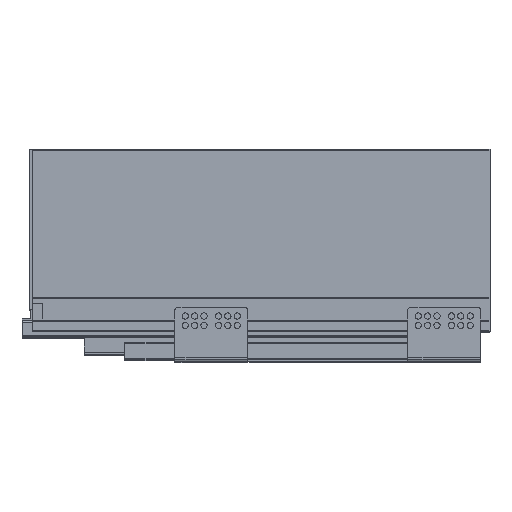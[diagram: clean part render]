
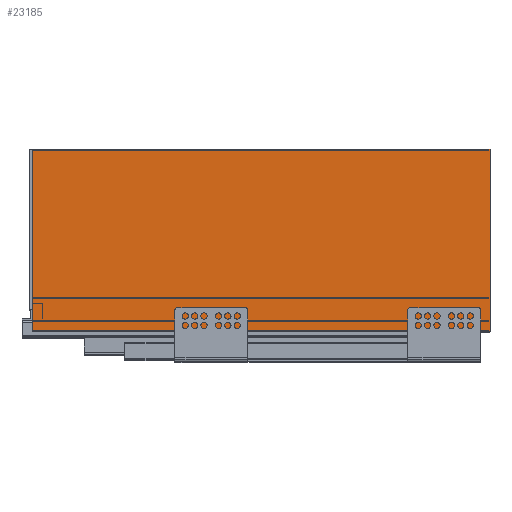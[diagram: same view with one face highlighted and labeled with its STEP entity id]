
A CAD part, top view. The second image highlights one B-rep face of the part: STEP entity #23185.
In plain terms, the highlighted planar face has unit normal (0, 0, 1).
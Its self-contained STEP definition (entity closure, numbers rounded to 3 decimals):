
#570=PLANE('',#24569);
#1523=FACE_OUTER_BOUND('',#2804,.T.);
#2804=EDGE_LOOP('',(#16214,#16215,#16216,#16217));
#4518=LINE('',#33431,#7157);
#4520=LINE('',#33435,#7159);
#4521=LINE('',#33437,#7160);
#4522=LINE('',#33438,#7161);
#7157=VECTOR('',#26909,10.);
#7159=VECTOR('',#26913,10.);
#7160=VECTOR('',#26914,10.);
#7161=VECTOR('',#26915,10.);
#10371=VERTEX_POINT('',#33428);
#10372=VERTEX_POINT('',#33430);
#10373=VERTEX_POINT('',#33434);
#10374=VERTEX_POINT('',#33436);
#12686=EDGE_CURVE('',#10371,#10372,#4518,.T.);
#12688=EDGE_CURVE('',#10371,#10373,#4520,.T.);
#12689=EDGE_CURVE('',#10373,#10374,#4521,.T.);
#12690=EDGE_CURVE('',#10374,#10372,#4522,.T.);
#16214=ORIENTED_EDGE('',*,*,#12688,.T.);
#16215=ORIENTED_EDGE('',*,*,#12689,.T.);
#16216=ORIENTED_EDGE('',*,*,#12690,.T.);
#16217=ORIENTED_EDGE('',*,*,#12686,.F.);
#23185=ADVANCED_FACE('',(#1523),#570,.F.);
#24569=AXIS2_PLACEMENT_3D('',#33433,#26911,#26912);
#26909=DIRECTION('',(1.,0.,0.));
#26911=DIRECTION('center_axis',(0.,0.,-1.));
#26912=DIRECTION('ref_axis',(0.,1.,0.));
#26913=DIRECTION('',(0.,-1.,0.));
#26914=DIRECTION('',(1.,0.,0.));
#26915=DIRECTION('',(0.,1.,0.));
#33428=CARTESIAN_POINT('',(0.,175.,535.));
#33430=CARTESIAN_POINT('',(440.,175.,535.));
#33431=CARTESIAN_POINT('',(0.,175.,535.));
#33433=CARTESIAN_POINT('Origin',(0.,0.,535.));
#33434=CARTESIAN_POINT('',(0.,0.,535.));
#33435=CARTESIAN_POINT('',(0.,175.,535.));
#33436=CARTESIAN_POINT('',(440.,0.,535.));
#33437=CARTESIAN_POINT('',(0.,0.,535.));
#33438=CARTESIAN_POINT('',(440.,175.,535.));
